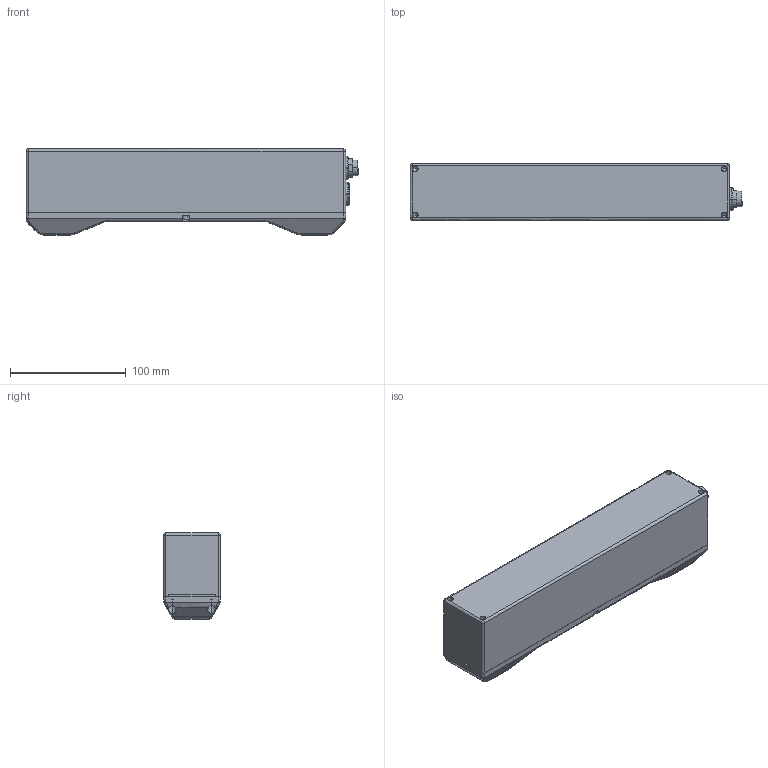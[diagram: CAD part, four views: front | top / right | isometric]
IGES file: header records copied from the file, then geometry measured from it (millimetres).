
Start section: SolidWorks IGES file using analytic representation for surfaces
Global section: file name: C:\vault\Sensors\dev\RD\Gocator\Models\3x00\_Base\Mechanical\-1.0_DSN_GOCATOR_3x00.IGS; native system: SolidWorks 2012; preprocessor: SolidWorks 2012; author: ABounardjian; date: 130801.090824; units: inch
Bounding box: 286.75 x 49 x 74.35 mm (x, y, z)
Volume: 1245.2 mm3; surface area: 83486 mm2
Topology: 6 solids, 19 shells, 941 faces, 2668 edges, 1816 vertices
Faces by surface type: revolution 484, plane 417, bspline 40
